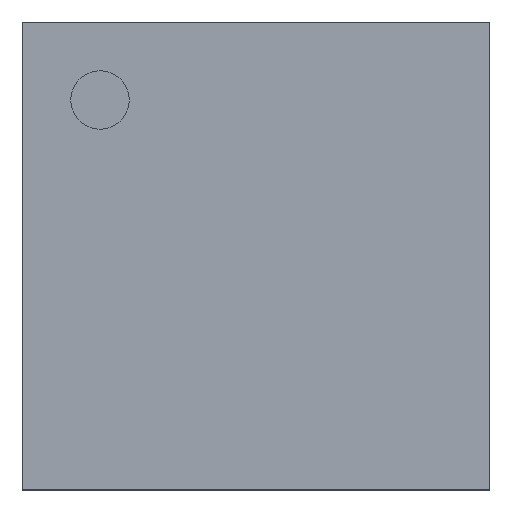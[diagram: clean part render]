
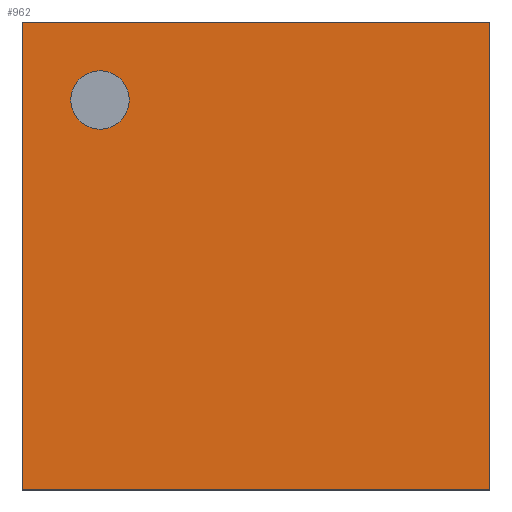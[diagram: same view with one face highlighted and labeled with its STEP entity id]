
A CAD part, top view. The second image highlights one B-rep face of the part: STEP entity #962.
In plain terms, the highlighted planar face has unit normal (0, 0, 1).
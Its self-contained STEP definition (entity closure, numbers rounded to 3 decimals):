
#898 = VERTEX_POINT('',#899);
#899 = CARTESIAN_POINT('',(0.,0.,0.68));
#914 = VERTEX_POINT('',#915);
#915 = CARTESIAN_POINT('',(0.,10.,0.68));
#921 = EDGE_CURVE('',#898,#914,#922,.T.);
#922 = LINE('',#923,#924);
#923 = CARTESIAN_POINT('',(0.,0.,0.68));
#924 = VECTOR('',#925,1.);
#925 = DIRECTION('',(0.,1.,0.));
#944 = EDGE_CURVE('',#898,#945,#947,.T.);
#945 = VERTEX_POINT('',#946);
#946 = CARTESIAN_POINT('',(10.,0.,0.68));
#947 = LINE('',#948,#949);
#948 = CARTESIAN_POINT('',(0.,0.,0.68));
#949 = VECTOR('',#950,1.);
#950 = DIRECTION('',(1.,0.,0.));
#962 = ADVANCED_FACE('',(#963,#981),#992,.T.);
#963 = FACE_BOUND('',#964,.T.);
#964 = EDGE_LOOP('',(#965,#966,#967,#975));
#965 = ORIENTED_EDGE('',*,*,#921,.F.);
#966 = ORIENTED_EDGE('',*,*,#944,.T.);
#967 = ORIENTED_EDGE('',*,*,#968,.T.);
#968 = EDGE_CURVE('',#945,#969,#971,.T.);
#969 = VERTEX_POINT('',#970);
#970 = CARTESIAN_POINT('',(10.,10.,0.68));
#971 = LINE('',#972,#973);
#972 = CARTESIAN_POINT('',(10.,0.,0.68));
#973 = VECTOR('',#974,1.);
#974 = DIRECTION('',(0.,1.,0.));
#975 = ORIENTED_EDGE('',*,*,#976,.F.);
#976 = EDGE_CURVE('',#914,#969,#977,.T.);
#977 = LINE('',#978,#979);
#978 = CARTESIAN_POINT('',(0.,10.,0.68));
#979 = VECTOR('',#980,1.);
#980 = DIRECTION('',(1.,0.,0.));
#981 = FACE_BOUND('',#982,.T.);
#982 = EDGE_LOOP('',(#983));
#983 = ORIENTED_EDGE('',*,*,#984,.F.);
#984 = EDGE_CURVE('',#985,#985,#987,.T.);
#985 = VERTEX_POINT('',#986);
#986 = CARTESIAN_POINT('',(2.292,8.333,0.68));
#987 = CIRCLE('',#988,0.625);
#988 = AXIS2_PLACEMENT_3D('',#989,#990,#991);
#989 = CARTESIAN_POINT('',(1.667,8.333,0.68));
#990 = DIRECTION('',(0.,0.,1.));
#991 = DIRECTION('',(1.,0.,0.));
#992 = PLANE('',#993);
#993 = AXIS2_PLACEMENT_3D('',#994,#995,#996);
#994 = CARTESIAN_POINT('',(0.,0.,0.68));
#995 = DIRECTION('',(0.,0.,1.));
#996 = DIRECTION('',(1.,0.,0.));
